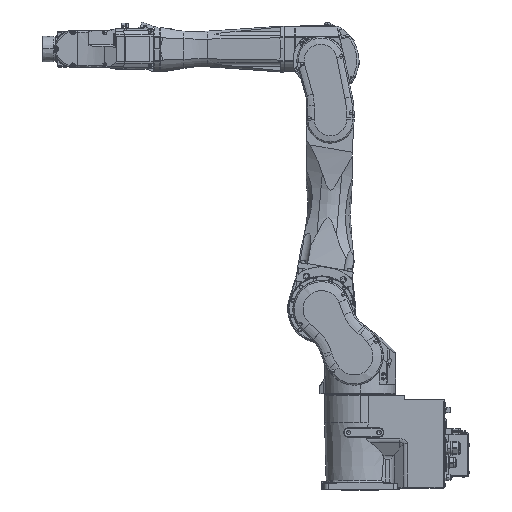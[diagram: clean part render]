
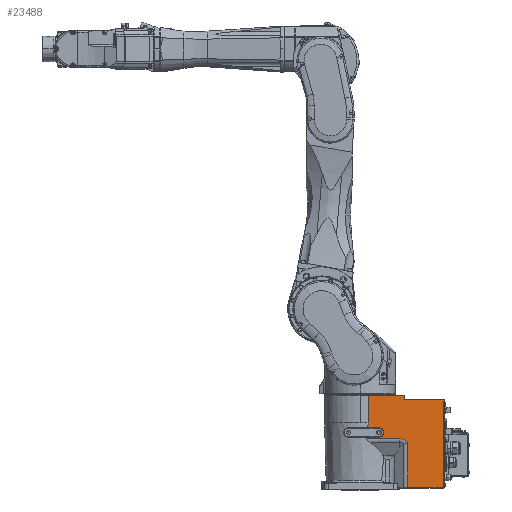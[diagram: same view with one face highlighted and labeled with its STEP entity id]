
A CAD part, top view. The second image highlights one B-rep face of the part: STEP entity #23488.
In plain terms, the highlighted planar face has unit normal (0, 0, 1).
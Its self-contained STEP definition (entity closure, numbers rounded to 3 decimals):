
#987=DIRECTION('',(0.,1.,0.));
#988=VECTOR('',#987,2.732);
#989=CARTESIAN_POINT('',(217.,227.768,90.));
#990=LINE('',#989,#988);
#991=DIRECTION('',(0.,1.,0.));
#992=VECTOR('',#991,218.154);
#993=CARTESIAN_POINT('',(217.,9.614,90.));
#994=LINE('',#993,#992);
#995=DIRECTION('',(0.,1.,0.));
#996=VECTOR('',#995,2.257);
#997=CARTESIAN_POINT('',(217.,7.357,90.));
#998=LINE('',#997,#996);
#999=CARTESIAN_POINT('',(104.2,108.85,90.));
#1000=DIRECTION('',(0.,0.,-1.));
#1001=DIRECTION('',(0.,1.,0.));
#1002=AXIS2_PLACEMENT_3D('',#999,#1000,#1001);
#1004=CARTESIAN_POINT('',(16.647,137.825,90.));
#1005=CARTESIAN_POINT('',(16.58,137.362,90.));
#1006=CARTESIAN_POINT('',(16.446,136.436,90.));
#1007=CARTESIAN_POINT('',(16.242,135.047,90.));
#1008=CARTESIAN_POINT('',(16.105,134.122,90.));
#1009=CARTESIAN_POINT('',(16.036,133.659,90.));
#1011=DIRECTION('',(-1.,0.,0.));
#1012=VECTOR('',#1011,33.353);
#1013=CARTESIAN_POINT('',(50.,137.825,90.));
#1014=LINE('',#1013,#1012);
#1015=CARTESIAN_POINT('',(50.,150.,90.));
#1016=DIRECTION('',(0.,0.,-1.));
#1017=DIRECTION('',(1.,0.,0.));
#1018=AXIS2_PLACEMENT_3D('',#1015,#1016,#1017);
#1020=CARTESIAN_POINT('',(50.,150.,90.));
#1021=DIRECTION('',(0.,0.,-1.));
#1022=DIRECTION('',(0.,1.,0.));
#1023=AXIS2_PLACEMENT_3D('',#1020,#1021,#1022);
#1025=DIRECTION('',(1.,0.,0.));
#1026=VECTOR('',#1025,30.145);
#1027=CARTESIAN_POINT('',(19.855,162.175,90.));
#1028=LINE('',#1027,#1026);
#1029=CARTESIAN_POINT('',(21.36,175.,90.));
#1030=CARTESIAN_POINT('',(21.198,173.574,90.));
#1031=CARTESIAN_POINT('',(20.872,170.723,90.));
#1032=CARTESIAN_POINT('',(20.37,166.448,90.));
#1033=CARTESIAN_POINT('',(20.028,163.599,90.));
#1034=CARTESIAN_POINT('',(19.855,162.175,90.));
#1036=DIRECTION('',(-1.,0.,0.));
#1037=VECTOR('',#1036,53.4);
#1038=CARTESIAN_POINT('',(74.76,246.3,90.));
#1039=LINE('',#1038,#1037);
#1040=DIRECTION('',(-0.026,1.,0.));
#1041=VECTOR('',#1040,10.304);
#1042=CARTESIAN_POINT('',(116.27,235.,90.));
#1043=LINE('',#1042,#1041);
#1044=DIRECTION('',(0.,1.,0.));
#1045=VECTOR('',#1044,4.5);
#1046=CARTESIAN_POINT('',(220.,230.5,90.));
#1047=LINE('',#1046,#1045);
#1048=DIRECTION('',(1.,0.,0.));
#1049=VECTOR('',#1048,3.);
#1050=CARTESIAN_POINT('',(217.,230.5,90.));
#1051=LINE('',#1050,#1049);
#1210=DIRECTION('',(1.,0.,0.));
#1211=VECTOR('',#1210,103.73);
#1212=CARTESIAN_POINT('',(116.27,235.,90.));
#1213=LINE('',#1212,#1211);
#1258=DIRECTION('',(1.,0.,0.));
#1259=VECTOR('',#1258,41.199);
#1260=CARTESIAN_POINT('',(74.801,245.3,90.));
#1261=LINE('',#1260,#1259);
#1286=CARTESIAN_POINT('',(74.76,246.3,90.));
#1287=CARTESIAN_POINT('',(74.764,246.189,90.));
#1288=CARTESIAN_POINT('',(74.773,245.967,90.));
#1289=CARTESIAN_POINT('',(74.787,245.633,90.));
#1290=CARTESIAN_POINT('',(74.796,245.411,90.));
#1291=CARTESIAN_POINT('',(74.801,245.3,90.));
#1402=DIRECTION('',(0.,1.,0.));
#1403=VECTOR('',#1402,71.3);
#1404=CARTESIAN_POINT('',(21.36,175.,90.));
#1405=LINE('',#1404,#1403);
#1530=CARTESIAN_POINT('',(16.647,137.825,90.));
#2035=DIRECTION('',(-1.,0.,0.));
#2036=VECTOR('',#2035,88.164);
#2037=CARTESIAN_POINT('',(104.2,133.659,90.));
#2038=LINE('',#2037,#2036);
#2134=DIRECTION('',(0.,1.,0.));
#2135=VECTOR('',#2134,115.424);
#2136=CARTESIAN_POINT('',(124.729,7.357,90.));
#2137=LINE('',#2136,#2135);
#2176=DIRECTION('',(-1.,0.,0.));
#2177=VECTOR('',#2176,92.271);
#2178=CARTESIAN_POINT('',(217.,7.357,90.));
#2179=LINE('',#2178,#2177);
#18586=VERTEX_POINT('',#1530);
#18587=CARTESIAN_POINT('',(50.,137.825,90.));
#18588=VERTEX_POINT('',#18587);
#18697=CARTESIAN_POINT('',(116.27,235.,90.));
#18698=CARTESIAN_POINT('',(116.,245.3,90.));
#18699=VERTEX_POINT('',#18697);
#18700=VERTEX_POINT('',#18698);
#19164=CARTESIAN_POINT('',(217.,227.768,90.));
#19165=CARTESIAN_POINT('',(217.,230.5,90.));
#19166=VERTEX_POINT('',#19164);
#19167=VERTEX_POINT('',#19165);
#19168=CARTESIAN_POINT('',(220.,230.5,90.));
#19169=VERTEX_POINT('',#19168);
#19170=CARTESIAN_POINT('',(220.,235.,90.));
#19171=VERTEX_POINT('',#19170);
#19172=CARTESIAN_POINT('',(74.801,245.3,90.));
#19173=VERTEX_POINT('',#19172);
#19174=VERTEX_POINT('',#1286);
#19175=CARTESIAN_POINT('',(21.36,246.3,90.));
#19176=VERTEX_POINT('',#19175);
#19177=VERTEX_POINT('',#1029);
#19178=VERTEX_POINT('',#1034);
#19179=CARTESIAN_POINT('',(50.,162.175,90.));
#19180=VERTEX_POINT('',#19179);
#19181=CARTESIAN_POINT('',(62.175,150.,90.));
#19182=VERTEX_POINT('',#19181);
#19183=VERTEX_POINT('',#1009);
#19184=CARTESIAN_POINT('',(104.2,133.659,90.));
#19185=VERTEX_POINT('',#19184);
#19186=CARTESIAN_POINT('',(124.729,122.781,90.));
#19187=VERTEX_POINT('',#19186);
#19188=CARTESIAN_POINT('',(124.729,7.357,90.));
#19189=VERTEX_POINT('',#19188);
#19190=CARTESIAN_POINT('',(217.,7.357,90.));
#19191=VERTEX_POINT('',#19190);
#19192=CARTESIAN_POINT('',(217.,9.614,90.));
#19193=VERTEX_POINT('',#19192);
#23440=CARTESIAN_POINT('',(124.729,155.,90.));
#23441=DIRECTION('',(0.,0.,-1.));
#23442=DIRECTION('',(-1.,0.,0.));
#23443=AXIS2_PLACEMENT_3D('',#23440,#23441,#23442);
#23444=PLANE('',#23443);
#23445=ORIENTED_EDGE('',*,*,#23422,.F.);
#23447=ORIENTED_EDGE('',*,*,#23446,.F.);
#23449=ORIENTED_EDGE('',*,*,#23448,.F.);
#23451=ORIENTED_EDGE('',*,*,#23450,.T.);
#23453=ORIENTED_EDGE('',*,*,#23452,.T.);
#23455=ORIENTED_EDGE('',*,*,#23454,.F.);
#23457=ORIENTED_EDGE('',*,*,#23456,.T.);
#23459=ORIENTED_EDGE('',*,*,#23458,.F.);
#23461=ORIENTED_EDGE('',*,*,#23460,.F.);
#23463=ORIENTED_EDGE('',*,*,#23462,.F.);
#23465=ORIENTED_EDGE('',*,*,#23464,.F.);
#23467=ORIENTED_EDGE('',*,*,#23466,.F.);
#23469=ORIENTED_EDGE('',*,*,#23468,.F.);
#23471=ORIENTED_EDGE('',*,*,#23470,.T.);
#23473=ORIENTED_EDGE('',*,*,#23472,.F.);
#23475=ORIENTED_EDGE('',*,*,#23474,.T.);
#23477=ORIENTED_EDGE('',*,*,#23476,.T.);
#23479=ORIENTED_EDGE('',*,*,#23478,.F.);
#23481=ORIENTED_EDGE('',*,*,#23480,.T.);
#23483=ORIENTED_EDGE('',*,*,#23482,.F.);
#23485=ORIENTED_EDGE('',*,*,#23484,.F.);
#23486=EDGE_LOOP('',(#23445,#23447,#23449,#23451,#23453,#23455,#23457,#23459,
#23461,#23463,#23465,#23467,#23469,#23471,#23473,#23475,#23477,#23479,#23481,
#23483,#23485));
#23487=FACE_OUTER_BOUND('',#23486,.F.);
#1003=CIRCLE('',#1002,24.809);
#1010=B_SPLINE_CURVE_WITH_KNOTS('',3,(#1004,#1005,#1006,#1007,#1008,#1009),
.UNSPECIFIED.,.F.,.F.,(4,1,1,4),(0.,0.333,0.667,1.),
.UNSPECIFIED.);
#1019=CIRCLE('',#1018,12.175);
#1024=CIRCLE('',#1023,12.175);
#1035=B_SPLINE_CURVE_WITH_KNOTS('',3,(#1029,#1030,#1031,#1032,#1033,#1034),
.UNSPECIFIED.,.F.,.F.,(4,1,1,4),(0.,0.333,0.667,1.),
.UNSPECIFIED.);
#1292=B_SPLINE_CURVE_WITH_KNOTS('',3,(#1286,#1287,#1288,#1289,#1290,#1291),
.UNSPECIFIED.,.F.,.F.,(4,1,1,4),(0.,0.333,0.667,1.),
.UNSPECIFIED.);
#23422=EDGE_CURVE('',#19166,#19167,#990,.T.);
#23446=EDGE_CURVE('',#19193,#19166,#994,.T.);
#23448=EDGE_CURVE('',#19191,#19193,#998,.T.);
#23450=EDGE_CURVE('',#19191,#19189,#2179,.T.);
#23452=EDGE_CURVE('',#19189,#19187,#2137,.T.);
#23454=EDGE_CURVE('',#19185,#19187,#1003,.T.);
#23456=EDGE_CURVE('',#19185,#19183,#2038,.T.);
#23458=EDGE_CURVE('',#18586,#19183,#1010,.T.);
#23460=EDGE_CURVE('',#18588,#18586,#1014,.T.);
#23462=EDGE_CURVE('',#19182,#18588,#1019,.T.);
#23464=EDGE_CURVE('',#19180,#19182,#1024,.T.);
#23466=EDGE_CURVE('',#19178,#19180,#1028,.T.);
#23468=EDGE_CURVE('',#19177,#19178,#1035,.T.);
#23470=EDGE_CURVE('',#19177,#19176,#1405,.T.);
#23472=EDGE_CURVE('',#19174,#19176,#1039,.T.);
#23474=EDGE_CURVE('',#19174,#19173,#1292,.T.);
#23476=EDGE_CURVE('',#19173,#18700,#1261,.T.);
#23478=EDGE_CURVE('',#18699,#18700,#1043,.T.);
#23480=EDGE_CURVE('',#18699,#19171,#1213,.T.);
#23482=EDGE_CURVE('',#19169,#19171,#1047,.T.);
#23484=EDGE_CURVE('',#19167,#19169,#1051,.T.);
#23488=ADVANCED_FACE('',(#23487),#23444,.F.);
